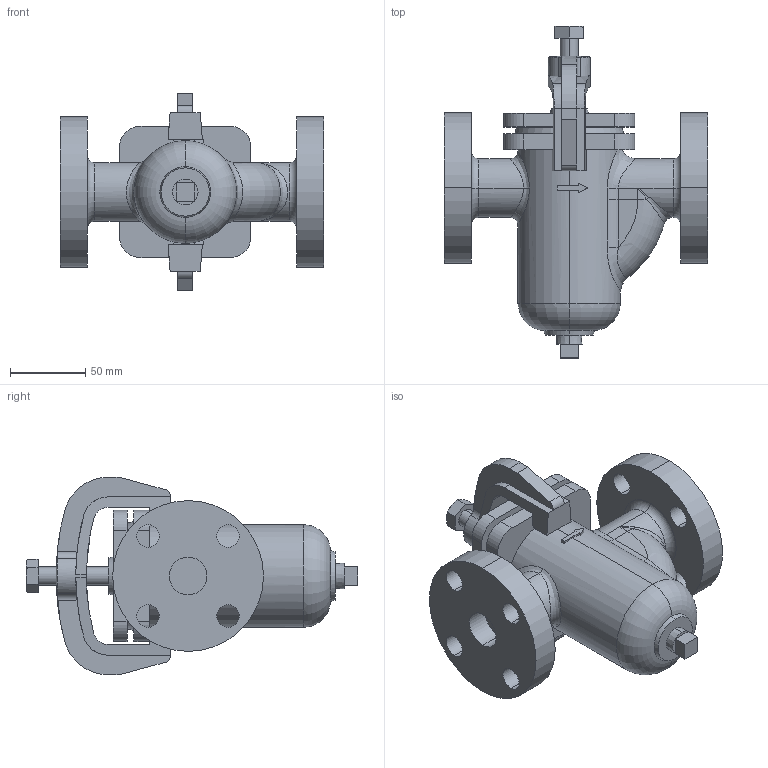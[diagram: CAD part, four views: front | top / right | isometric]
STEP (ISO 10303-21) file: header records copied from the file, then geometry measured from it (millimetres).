
FILE_DESCRIPTION (( 'STEP AP203' ), '1' );
FILE_NAME ('SU-20S 20A.STEP', '2025-12-15T02:22:53', ( '' ), ( '' ), 'SwSTEP 2.0', 'SolidWorks 2024', '' );
FILE_SCHEMA (( 'CONFIG_CONTROL_DESIGN' ));
Length unit declared in the file: millimetre
Products named in the file (4): SU-20S Body-P 20A; SU-20S 20A; SU-20S Arm 20-25A; SU-20S Bolt 20-25A
Assembly tree (3 placements, depth 2):
  SU-20S 20A
    SU-20S Body-P 20A
    SU-20S Arm 20-25A
    SU-20S Bolt 20-25A
Bounding box: 175 x 220.2 x 131 mm (x, y, z)
Volume: 1031130.5 mm3; surface area: 131612.6 mm2
Topology: 3 solids, 3 shells, 190 faces, 484 edges, 311 vertices
Faces by surface type: plane 79, cylinder 76, cone 15, bspline 7, torus 7, sphere 6
Entity records: 7974 total; most frequent: CARTESIAN_POINT 2982, ORIENTED_EDGE 964, DIRECTION 962, EDGE_CURVE 482, AXIS2_PLACEMENT_3D 364, VERTEX_POINT 311, VECTOR 234, LINE 234
